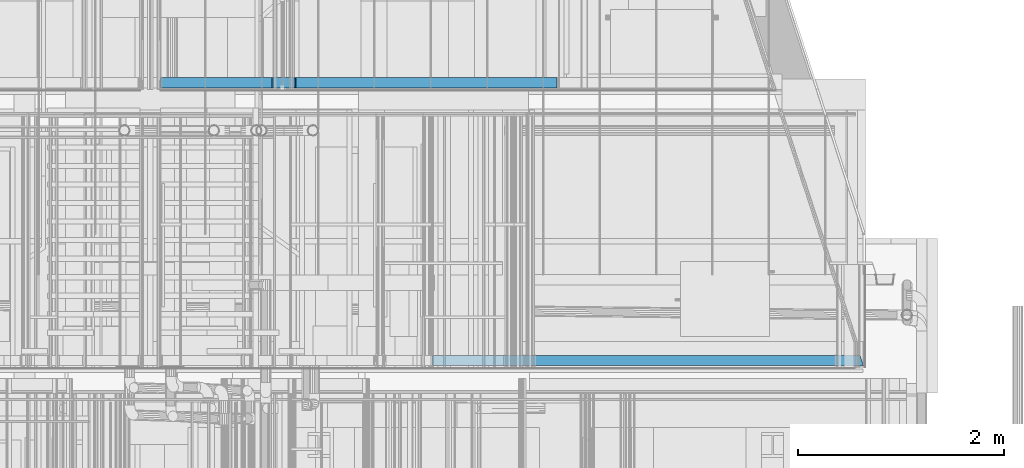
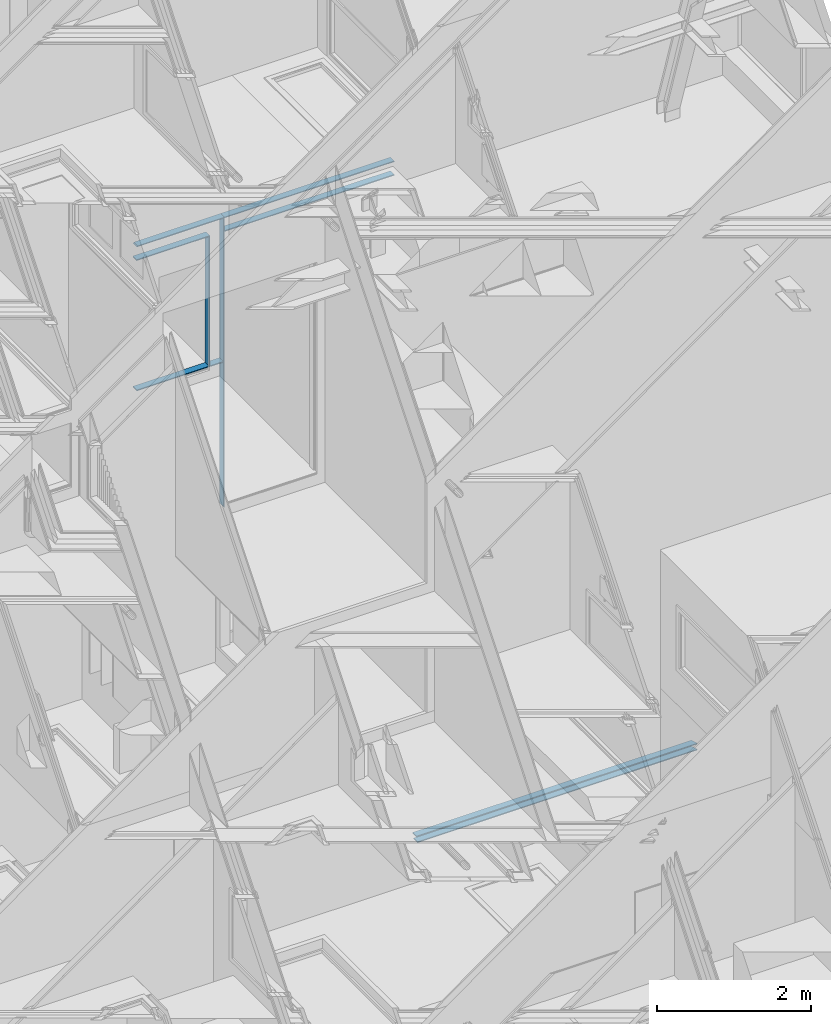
# One storey, part 163 of 583: 10 building element parts, 6 elements without a shape of their own.
"""IFC2X3 building model written with IfcOpenShell, lengths in metres."""

from ifc_helpers import new_model, entity, si_unit, converted_unit, derived_unit, money_unit, direction, frame, frame_2d, origin_with_axes, place, context, subcontext, project, spatial, polyline, rectangle, outline, extrude, clip, halfspace, material, type_object, element, aggregate, save


model = new_model("IFC2X3")

# Units and contexts
model_context = context("Model", 3, precision=1e-05, world=origin_with_axes(), true_north=direction((0.0, 1.0)))
body_context = subcontext(model_context, "Body", "Model", "MODEL_VIEW", scale=1.0)
ifc_project = project(units=[si_unit("LENGTHUNIT", "METRE"), si_unit("AREAUNIT", "SQUARE_METRE"), si_unit("VOLUMEUNIT", "CUBIC_METRE"), si_unit("ABSORBEDDOSEUNIT", "GRAY"), si_unit("AMOUNTOFSUBSTANCEUNIT", "MOLE"), si_unit("DOSEEQUIVALENTUNIT", "SIEVERT"), si_unit("ELECTRICCAPACITANCEUNIT", "FARAD"), si_unit("ELECTRICCHARGEUNIT", "COULOMB"), si_unit("ELECTRICCONDUCTANCEUNIT", "SIEMENS"), si_unit("ELECTRICCURRENTUNIT", "AMPERE"), si_unit("ELECTRICRESISTANCEUNIT", "OHM"), si_unit("ELECTRICVOLTAGEUNIT", "VOLT"), si_unit("ENERGYUNIT", "JOULE"), si_unit("FORCEUNIT", "NEWTON"), si_unit("FREQUENCYUNIT", "HERTZ"), si_unit("ILLUMINANCEUNIT", "LUX"), si_unit("INDUCTANCEUNIT", "HENRY"), si_unit("LUMINOUSFLUXUNIT", "LUMEN"), si_unit("LUMINOUSINTENSITYUNIT", "CANDELA"), si_unit("MAGNETICFLUXDENSITYUNIT", "TESLA"), si_unit("MAGNETICFLUXUNIT", "WEBER"), si_unit("MASSUNIT", "GRAM"), converted_unit("PLANEANGLEUNIT", "degree", entity("IfcReal", 0.0174532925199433), si_unit("PLANEANGLEUNIT", "RADIAN"), dimensions=[0, 0, 0, 0, 0, 0, 0]), si_unit("POWERUNIT", "WATT"), si_unit("PRESSUREUNIT", "PASCAL"), si_unit("RADIOACTIVITYUNIT", "BECQUEREL"), si_unit("SOLIDANGLEUNIT", "STERADIAN"), si_unit("THERMODYNAMICTEMPERATUREUNIT", "KELVIN"), si_unit("TIMEUNIT", "SECOND"), derived_unit("ACCELERATIONUNIT", [(si_unit("LENGTHUNIT", "METRE"), 1), (si_unit("TIMEUNIT", "SECOND"), -2)]), derived_unit("ANGULARVELOCITYUNIT", [(converted_unit("PLANEANGLEUNIT", "degree", entity("IfcReal", 0.0174532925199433), si_unit("PLANEANGLEUNIT", "RADIAN"), dimensions=[0, 0, 0, 0, 0, 0, 0]), 1), (si_unit("TIMEUNIT", "SECOND"), -1)]), derived_unit("CURVATUREUNIT", [(converted_unit("PLANEANGLEUNIT", "degree", entity("IfcReal", 0.0174532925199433), si_unit("PLANEANGLEUNIT", "RADIAN"), dimensions=[0, 0, 0, 0, 0, 0, 0]), 1), (si_unit("LENGTHUNIT", "METRE"), -1)]), derived_unit("DYNAMICVISCOSITYUNIT", [(si_unit("PRESSUREUNIT", "PASCAL"), 1), (si_unit("TIMEUNIT", "SECOND"), 1)]), derived_unit("HEATFLUXDENSITYUNIT", [(si_unit("POWERUNIT", "WATT"), 1), (si_unit("LENGTHUNIT", "METRE"), -2)]), derived_unit("HEATINGVALUEUNIT", [(si_unit("ENERGYUNIT", "JOULE"), 1), (si_unit("MASSUNIT", "GRAM"), -1)]), derived_unit("INTEGERCOUNTRATEUNIT", [(si_unit("TIMEUNIT", "SECOND"), -1)]), derived_unit("IONCONCENTRATIONUNIT", [(si_unit("MASSUNIT", "GRAM"), 1), (si_unit("VOLUMEUNIT", "CUBIC_METRE"), -1)]), derived_unit("ISOTHERMALMOISTURECAPACITYUNIT", [(si_unit("VOLUMEUNIT", "CUBIC_METRE"), 1), (si_unit("MASSUNIT", "GRAM"), -1)]), derived_unit("KINEMATICVISCOSITYUNIT", [(si_unit("AREAUNIT", "SQUARE_METRE"), 1), (si_unit("TIMEUNIT", "SECOND"), -1)]), derived_unit("LINEARFORCEUNIT", [(si_unit("FORCEUNIT", "NEWTON"), 1), (si_unit("LENGTHUNIT", "METRE"), -1)]), derived_unit("LINEARMOMENTUNIT", [(si_unit("FORCEUNIT", "NEWTON"), 1), (si_unit("LENGTHUNIT", "METRE"), -1)]), derived_unit("LINEARSTIFFNESSUNIT", [(si_unit("FORCEUNIT", "NEWTON"), 1), (si_unit("LENGTHUNIT", "METRE"), -1)]), derived_unit("LINEARVELOCITYUNIT", [(si_unit("LENGTHUNIT", "METRE"), 1), (si_unit("TIMEUNIT", "SECOND"), -1)]), derived_unit("LUMINOUSINTENSITYDISTRIBUTIONUNIT", [(si_unit("LUMINOUSINTENSITYUNIT", "CANDELA"), 1), (si_unit("LUMINOUSFLUXUNIT", "LUMEN"), -1)]), derived_unit("MASSDENSITYUNIT", [(si_unit("MASSUNIT", "GRAM"), 1), (si_unit("VOLUMEUNIT", "CUBIC_METRE"), -1)]), derived_unit("MASSFLOWRATEUNIT", [(si_unit("MASSUNIT", "GRAM"), 1), (si_unit("TIMEUNIT", "SECOND"), -1)]), derived_unit("MASSPERLENGTHUNIT", [(si_unit("MASSUNIT", "GRAM"), 1), (si_unit("LENGTHUNIT", "METRE"), -1)]), derived_unit("MODULUSOFELASTICITYUNIT", [(si_unit("FORCEUNIT", "NEWTON"), 1), (si_unit("AREAUNIT", "SQUARE_METRE"), -1)]), derived_unit("MODULUSOFLINEARSUBGRADEREACTIONUNIT", [(si_unit("FORCEUNIT", "NEWTON"), 1), (si_unit("LENGTHUNIT", "METRE"), -2)]), derived_unit("MODULUSOFROTATIONALSUBGRADEREACTIONUNIT", [(si_unit("FORCEUNIT", "NEWTON"), 1), (si_unit("LENGTHUNIT", "METRE"), 1)]), derived_unit("MODULUSOFSUBGRADEREACTIONUNIT", [(si_unit("FORCEUNIT", "NEWTON"), 1), (si_unit("VOLUMEUNIT", "CUBIC_METRE"), -1)]), derived_unit("MOISTUREDIFFUSIVITYUNIT", [(si_unit("VOLUMEUNIT", "CUBIC_METRE"), 1), (si_unit("TIMEUNIT", "SECOND"), -1)]), derived_unit("MOLECULARWEIGHTUNIT", [(si_unit("MASSUNIT", "GRAM"), 1), (si_unit("AMOUNTOFSUBSTANCEUNIT", "MOLE"), -1)]), derived_unit("PLANARFORCEUNIT", [(si_unit("FORCEUNIT", "NEWTON"), 1), (si_unit("LENGTHUNIT", "METRE"), -2)]), derived_unit("ROTATIONALFREQUENCYUNIT", [(si_unit("TIMEUNIT", "SECOND"), -1)]), derived_unit("ROTATIONALMASSUNIT", [(si_unit("MASSUNIT", "GRAM"), 1), (si_unit("LENGTHUNIT", "METRE"), 2)]), derived_unit("ROTATIONALSTIFFNESSUNIT", [(si_unit("FORCEUNIT", "NEWTON"), 1), (si_unit("LENGTHUNIT", "METRE"), 1), (converted_unit("PLANEANGLEUNIT", "degree", entity("IfcReal", 0.0174532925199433), si_unit("PLANEANGLEUNIT", "RADIAN"), dimensions=[0, 0, 0, 0, 0, 0, 0]), -1)]), derived_unit("SECTIONAREAINTEGRALUNIT", [(si_unit("LENGTHUNIT", "METRE"), 5)]), derived_unit("SECTIONMODULUSUNIT", [(si_unit("LENGTHUNIT", "METRE"), 3)]), derived_unit("SHEARMODULUSUNIT", [(si_unit("FORCEUNIT", "NEWTON"), 1), (si_unit("AREAUNIT", "SQUARE_METRE"), -1)]), derived_unit("SOUNDPOWERUNIT", [(si_unit("ENERGYUNIT", "JOULE"), 1), (si_unit("TIMEUNIT", "SECOND"), -1)]), derived_unit("SPECIFICHEATCAPACITYUNIT", [(si_unit("FORCEUNIT", "NEWTON"), 1), (si_unit("MASSUNIT", "GRAM"), -1), (si_unit("THERMODYNAMICTEMPERATUREUNIT", "KELVIN"), -1)]), derived_unit("TEMPERATUREGRADIENTUNIT", [(si_unit("THERMODYNAMICTEMPERATUREUNIT", "KELVIN"), 1), (si_unit("LENGTHUNIT", "METRE"), -1)]), derived_unit("THERMALADMITTANCEUNIT", [(si_unit("POWERUNIT", "WATT"), 1), (si_unit("AREAUNIT", "SQUARE_METRE"), -1), (si_unit("THERMODYNAMICTEMPERATUREUNIT", "KELVIN"), -1)]), derived_unit("THERMALCONDUCTANCEUNIT", [(si_unit("POWERUNIT", "WATT"), 1), (si_unit("LENGTHUNIT", "METRE"), -1), (si_unit("THERMODYNAMICTEMPERATUREUNIT", "KELVIN"), -1)]), derived_unit("THERMALEXPANSIONCOEFFICIENTUNIT", [(si_unit("THERMODYNAMICTEMPERATUREUNIT", "KELVIN"), -1)]), derived_unit("THERMALRESISTANCEUNIT", [(si_unit("AREAUNIT", "SQUARE_METRE"), 1), (si_unit("POWERUNIT", "WATT"), -1)]), derived_unit("THERMALTRANSMITTANCEUNIT", [(si_unit("POWERUNIT", "WATT"), 1), (si_unit("AREAUNIT", "SQUARE_METRE"), -1), (si_unit("THERMODYNAMICTEMPERATUREUNIT", "KELVIN"), -1)]), derived_unit("TORQUEUNIT", [(si_unit("FORCEUNIT", "NEWTON"), 1), (si_unit("LENGTHUNIT", "METRE"), 1)]), derived_unit("VAPORPERMEABILITYUNIT", [(si_unit("MASSUNIT", "GRAM"), 1), (si_unit("TIMEUNIT", "SECOND"), -1)]), derived_unit("VOLUMETRICFLOWRATEUNIT", [(si_unit("VOLUMEUNIT", "CUBIC_METRE"), 1), (si_unit("TIMEUNIT", "SECOND"), -1)]), derived_unit("WARPINGCONSTANTUNIT", [(si_unit("LENGTHUNIT", "METRE"), 6)]), derived_unit("WARPINGMOMENTUNIT", [(si_unit("FORCEUNIT", "NEWTON"), 1), (si_unit("LENGTHUNIT", "METRE"), 2)]), money_unit("GBP")], contexts=[model_context])

# Site, building, storey
site_placement = place(None, origin_with_axes())
site = spatial("IfcSite", under=ifc_project, at=site_placement, Name="Site", CompositionType="ELEMENT")
building_placement = place(site_placement, origin_with_axes())
building = spatial("IfcBuilding", under=site, at=building_placement, Name="Building01", CompositionType="ELEMENT")
storey_placement = place(building_placement, frame((0.0, 0.0, 20.78), z_axis=(0.0, 0.0, 1.0), x_axis=(1.0, 0.0, 0.0)))
storey = spatial("IfcBuildingStorey", under=building, at=storey_placement, Name="RL", CompositionType="ELEMENT", Elevation=20.78)

# Wall, building element parts
wall_type_1 = type_object("IfcWallType", Name="SHE_A-Walls_Type05b_Partition_80mm", PredefinedType="NOTDEFINED")
wall_1_placement = place(storey_placement, frame((10.151939, 14.98, -15.826976), z_axis=(0.0, 1.0, 0.0), x_axis=(1.0, 0.0, 0.0)))
wall_1 = element("IfcWall", 1, at=wall_1_placement, inside=storey, type_object=wall_type_1, Name="5B", ObjectType="SHE_A-Walls_Type05b_Partition_80mm")
ifc_material = material(Name="A_BSUK_Walls_Timber")
placement_1 = place(wall_1_placement, origin_with_axes())
building_element_part_1 = element("IfcBuildingElementPart", 2, at=placement_1, material=ifc_material, Name="2", context=body_context, shape_type="Clipping", body=[
    clip(extrude(rectangle(XDim=4.186845, YDim=0.015, at=frame_2d((2.136422, 0.0605), x_axis=(-1.0, 0.0))), frame((0.0, 0.0, 0.015), z_axis=(0.0, 0.0, 1.0), x_axis=(1.0, 0.0, 0.0)), (0.0, 0.0, 1.0), 0.1), halfspace(frame((3.830339, 0.0, 1.244553), z_axis=(-0.95105652, 0.0, -0.30901699), x_axis=(0.0, -1.0, 0.0)), True)),
])
building_element_part_2 = element("IfcBuildingElementPart", 3, at=placement_1, material=ifc_material, Name="5", context=body_context, shape_type="Clipping", body=[
    clip(extrude(rectangle(XDim=4.201845, YDim=0.015, at=frame_2d((2.128922, -0.0345), x_axis=(-1.0, 0.0))), frame((0.0, 0.0, 0.015), z_axis=(0.0, 0.0, 1.0), x_axis=(1.0, 0.0, 0.0)), (0.0, 0.0, 1.0), 0.1), halfspace(frame((3.830339, 0.0, 1.244553), z_axis=(-0.95105652, 0.0, -0.30901699), x_axis=(0.0, -1.0, 0.0)), True)),
])
aggregate(wall_1, [building_element_part_1, building_element_part_2])

wall_type_2 = type_object("IfcWallType", Name="SHE_A-Walls_Type01d_Partywall_200mm_twin", PredefinedType="NOTDEFINED")
wall_2_placement = place(storey_placement, frame((11.429939, 17.68, -7.305), z_axis=(0.0, 1.0, 0.0), x_axis=(-1.0, 0.0, 0.0)))
wall_2 = element("IfcWall", 4, at=wall_2_placement, inside=storey, type_object=wall_type_2, Name="1D", ObjectType="SHE_A-Walls_Type01d_Partywall_200mm_twin")
placement_2 = place(wall_2_placement, origin_with_axes())
building_element_part_3 = element("IfcBuildingElementPart", 5, at=placement_2, material=ifc_material, Name="2", context=body_context, shape_type="SweptSolid", body=[
    extrude(outline(polyline([(2.797587, 0.14), (0.025, 0.14), (0.025, 0.125), (2.782587, 0.125), (2.797587, 0.14)])), frame((0.0, 0.0, 0.015), z_axis=(0.0, 0.0, 1.0), x_axis=(1.0, 0.0, 0.0)), (0.0, 0.0, 1.0), 0.1),
])
building_element_part_4 = element("IfcBuildingElementPart", 6, at=placement_2, material=ifc_material, Name="7", context=body_context, shape_type="SweptSolid", body=[
    extrude(outline(polyline([(2.582587, -0.075), (0.025, -0.075), (0.025, -0.09), (2.567587, -0.09), (2.582587, -0.075)])), frame((0.0, 0.0, 0.015), z_axis=(0.0, 0.0, 1.0), x_axis=(1.0, 0.0, 0.0)), (0.0, 0.0, 1.0), 0.1),
])
aggregate(wall_2, [building_element_part_3, building_element_part_4])

wall_type_3 = type_object("IfcWallType", Name="SHE_A-Walls_Type03b_Firewall_200mm_twin", PredefinedType="NOTDEFINED")
wall_3_placement = place(storey_placement, frame((8.722353, 17.68, -9.457), z_axis=(0.0, 1.0, 0.0), x_axis=(0.0, 0.0, 1.0)))
wall_3 = element("IfcWall", 7, at=wall_3_placement, inside=storey, type_object=wall_type_3, Name="3B", ObjectType="SHE_A-Walls_Type03b_Firewall_200mm_twin")
placement_3 = place(wall_3_placement, origin_with_axes())
building_element_part_5 = element("IfcBuildingElementPart", 8, at=placement_3, material=ifc_material, Name="2", context=body_context, shape_type="SweptSolid", body=[
    extrude(outline(polyline([(2.292, 0.14), (-0.193, 0.14), (-0.193, 0.125), (2.277, 0.125), (2.292, 0.14)])), frame((0.0, 0.0, 0.015), z_axis=(0.0, 0.0, 1.0), x_axis=(1.0, 0.0, 0.0)), (0.0, 0.0, 1.0), 0.1),
])
building_element_part_6 = element("IfcBuildingElementPart", 9, at=placement_3, material=ifc_material, Name="7", context=body_context, shape_type="SweptSolid", body=[
    extrude(outline(polyline([(2.077, -0.075), (0.0, -0.075), (0.015, -0.09), (2.062, -0.09), (2.077, -0.075)])), frame((0.0, 0.0, 0.015), z_axis=(0.0, 0.0, 1.0), x_axis=(1.0, 0.0, 0.0)), (0.0, 0.0, 1.0), 0.1),
])
aggregate(wall_3, [building_element_part_5, building_element_part_6])

wall_4_placement = place(storey_placement, frame((8.722353, 17.68, -7.305), z_axis=(0.0, 1.0, 0.0), x_axis=(-1.0, 0.0, 0.0)))
wall_4 = element("IfcWall", 10, at=wall_4_placement, inside=storey, type_object=wall_type_3, Name="3B", ObjectType="SHE_A-Walls_Type03b_Firewall_200mm_twin")
placement_4 = place(wall_4_placement, origin_with_axes())
building_element_part_7 = element("IfcBuildingElementPart", 11, at=placement_4, material=ifc_material, Name="2", context=body_context, shape_type="SweptSolid", body=[
    extrude(outline(polyline([(1.157413, 0.14), (-0.14, 0.14), (-0.125, 0.125), (1.172413, 0.125), (1.157413, 0.14)])), frame((0.0, 0.0, 0.015), z_axis=(0.0, 0.0, 1.0), x_axis=(1.0, 0.0, 0.0)), (0.0, 0.0, 1.0), 0.1),
])
building_element_part_8 = element("IfcBuildingElementPart", 12, at=placement_4, material=ifc_material, Name="7", context=body_context, shape_type="SweptSolid", body=[
    extrude(outline(polyline([(1.172413, -0.075), (0.075, -0.075), (0.09, -0.09), (1.172413, -0.09), (1.172413, -0.075)])), frame((0.0, 0.0, 0.015), z_axis=(0.0, 0.0, 1.0), x_axis=(1.0, 0.0, 0.0)), (0.0, 0.0, 1.0), 0.1),
])
aggregate(wall_4, [building_element_part_7, building_element_part_8])

# Wall, building element part
wall_type_4 = type_object("IfcWallType", Name="SHE_A-Walls_Type02c_LiftShaftWall_193mm", PredefinedType="NOTDEFINED")
wall_5_placement = place(storey_placement, frame((8.727353, 17.68, -11.648), z_axis=(0.0, 1.0, 0.0), x_axis=(0.0, 0.0, 1.0)))
wall_5 = element("IfcWall", 13, at=wall_5_placement, inside=storey, type_object=wall_type_4, Name="2C", ObjectType="SHE_A-Walls_Type02c_LiftShaftWall_193mm")
building_element_part_9_placement = place(wall_5_placement, origin_with_axes())
building_element_part_9 = element("IfcBuildingElementPart", 14, at=building_element_part_9_placement, material=ifc_material, Name="3", context=body_context, shape_type="SweptSolid", body=[
    extrude(outline(polyline([(2.206, 0.135), (-0.11, 0.135), (-0.095, 0.12), (2.191, 0.12), (2.206, 0.135)])), frame((0.0, 0.0, 0.015), z_axis=(0.0, 0.0, 1.0), x_axis=(1.0, 0.0, 0.0)), (0.0, 0.0, 1.0), 0.1),
])
aggregate(wall_5, [building_element_part_9])

wall_6_placement = place(storey_placement, frame((6.909769, 17.68, -9.577), z_axis=(0.0, 1.0, 0.0), x_axis=(1.0, 0.0, 0.0)))
wall_6 = element("IfcWall", 15, at=wall_6_placement, inside=storey, type_object=wall_type_4, Name="2C", ObjectType="SHE_A-Walls_Type02c_LiftShaftWall_193mm")
building_element_part_10_placement = place(wall_6_placement, origin_with_axes())
building_element_part_10 = element("IfcBuildingElementPart", 16, at=building_element_part_10_placement, material=ifc_material, Name="3", context=body_context, shape_type="SweptSolid", body=[
    extrude(outline(polyline([(1.937584, -0.12), (0.640171, -0.12), (0.640171, -0.135), (1.952584, -0.135), (1.937584, -0.12)])), frame((0.0, 0.0, 0.015), z_axis=(0.0, 0.0, 1.0), x_axis=(1.0, 0.0, 0.0)), (0.0, 0.0, 1.0), 0.1),
])
aggregate(wall_6, [building_element_part_10])

save(model, "model.ifc")
